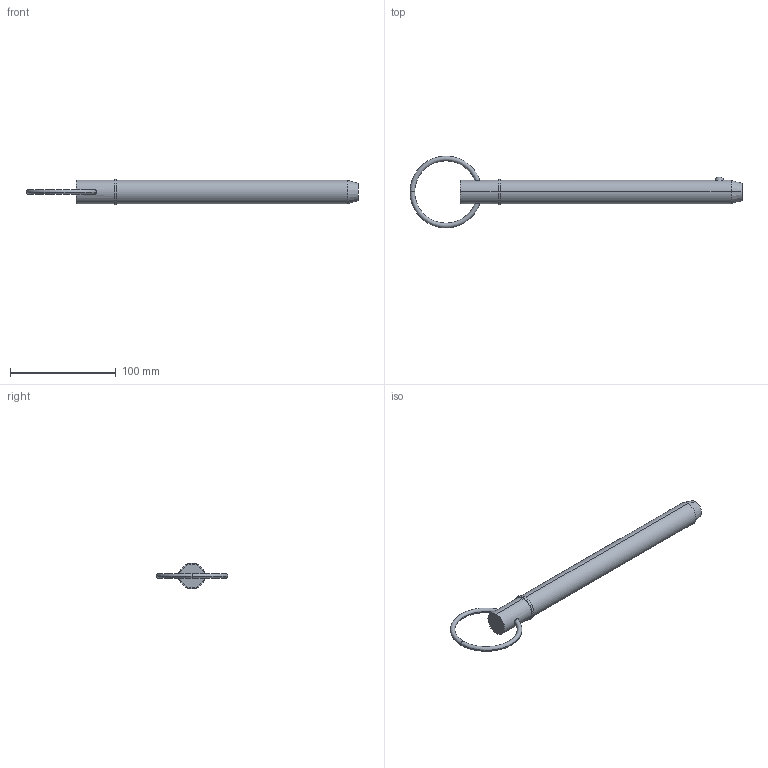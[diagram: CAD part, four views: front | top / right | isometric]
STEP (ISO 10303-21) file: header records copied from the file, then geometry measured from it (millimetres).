
FILE_DESCRIPTION (( 'STEP AP203' ), '1' );
FILE_NAME ('33014.W8880.step', '2024-11-04T08:38:43', ( '' ), ( '' ), 'SwSTEP 2.0', 'SolidWorks 2019', '' );
FILE_SCHEMA (( 'CONFIG_CONTROL_DESIGN' ));
Length unit declared in the file: millimetre
Products named in the file (3): Part1_33014.W8880; 33014.W8880; Part2_33014.W8880
Assembly tree (2 placements, depth 2):
  33014.W8880
    Part1_33014.W8880
    Part2_33014.W8880
Bounding box: 314.31 x 67.95 x 24.45 mm (x, y, z)
Volume: 105425.4 mm3; surface area: 22503.9 mm2
Topology: 2 solids, 2 shells, 22 faces, 43 edges, 26 vertices
Faces by surface type: torus 8, cylinder 6, plane 4, sphere 2, cone 2
Entity records: 1065 total; most frequent: CARTESIAN_POINT 288, DIRECTION 120, ORIENTED_EDGE 86, AXIS2_PLACEMENT_3D 56, EDGE_CURVE 43, CIRCLE 29, EDGE_LOOP 27, PERSON_AND_ORGANIZATION 26
